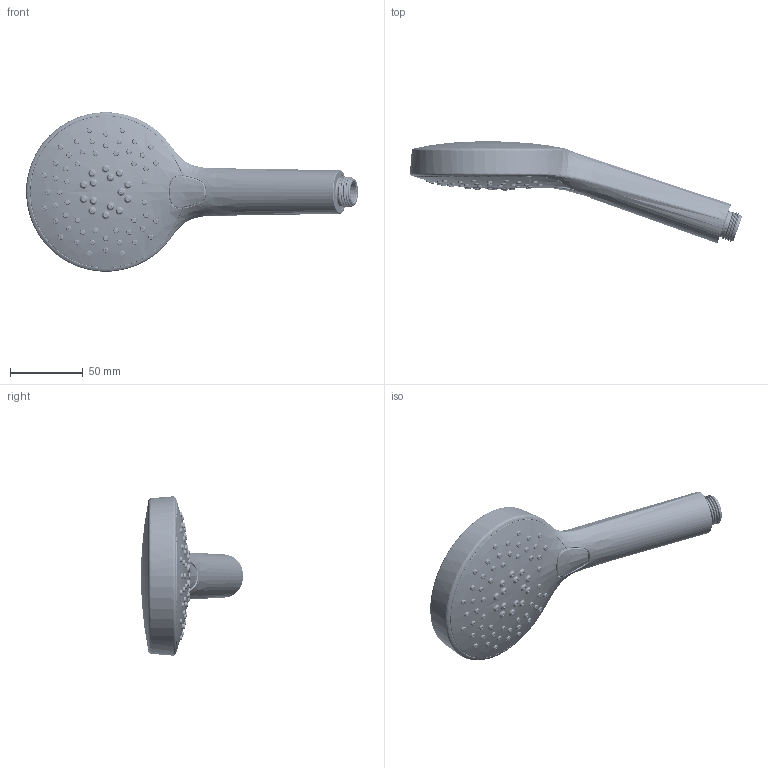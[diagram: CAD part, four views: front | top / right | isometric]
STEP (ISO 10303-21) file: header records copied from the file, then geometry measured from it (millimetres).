
FILE_DESCRIPTION((''),'2;1');
FILE_NAME('76686--00_SUB01_ASM','2022-06-14T08:18:54',('sosm1'),(''),'CREO PARAMETRIC BY PTC INC, 2018190','CREO PARAMETRIC BY PTC INC, 2018190','');
FILE_SCHEMA(('CONFIG_CONTROL_DESIGN'));
Products named in the file (41): 76686--00_POS1; 76686--00_POS2; 76686--00_POS3; 76686--00_POS4; 76686--00_POS5; 76686--00_POS6; 76686--00_POS7; 76686--00_SUB04_ASM; 76686--00_SUB03_ASM; 76686--00_POS8; 76686--00_POS9; 76686--00_POS10; 76686--00_SUB05_ASM; 76686--00_POS11; 76686--00_POS12; 76686--00_POS13; 76686--00_POS14; 76686--00_POS15; 76686--00_POS16; 76686--00_POS17; 76686--00_POS18; 76686--00_POS19; 76686--00_POS20; 76686--00_POS21; 76686--00_POS22; 76686--00_POS23; 76686--00_POS24; 76686--00_POS25; 76686--00_POS26; 76686--00_POS27; 76686--00_POS28; 76686--00_POS29; 76686--00_POS30; 76686--00_POS31; 76686--00_POS32; 76686--00_POS33; 76686--00_POS34; 76686--00_POS35; 76686--00_SUB06_ASM; 76686--00_SUB02_ASM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
Assembly tree (44 placements, depth 5):
  76686--00_SUB01_ASM
    76686--00_SUB02_ASM
      76686--00_POS1
      76686--00_SUB03_ASM
        76686--00_POS2
        76686--00_SUB04_ASM
          76686--00_POS3
          76686--00_POS4
          76686--00_POS5
          76686--00_POS6
          76686--00_POS7
      76686--00_SUB05_ASM
        76686--00_POS8
        76686--00_POS9
        76686--00_POS10
      76686--00_POS11
      76686--00_POS12
      76686--00_POS13
      76686--00_POS14
      76686--00_POS15
      76686--00_POS16
      76686--00_POS17
      76686--00_POS18
      76686--00_POS19
      76686--00_POS20
      76686--00_POS21  x5
      76686--00_POS22
      76686--00_POS23
      76686--00_POS24
      76686--00_POS25
      76686--00_POS26
      76686--00_POS27
      76686--00_POS28
      76686--00_POS29
      76686--00_POS30
      76686--00_POS31
      76686--00_POS32
      76686--00_SUB06_ASM
        76686--00_POS33
        76686--00_POS34
        76686--00_POS35
Bounding box: 228.52 x 70.4 x 109.62 mm (x, y, z)
Volume: 178136 mm3; surface area: 173084.2 mm2
Topology: 39 solids, 39 shells, 7643 faces, 21082 edges, 13536 vertices
Faces by surface type: cylinder 1967, bspline 1937, plane 1800, cone 1093, torus 649, sphere 108, extrusion 65, revolution 24
Entity records: 390753 total; most frequent: CARTESIAN_POINT 217985, ORIENTED_EDGE 40900, DIRECTION 29629, EDGE_CURVE 20450, VERTEX_POINT 13196, AXIS2_PLACEMENT_3D 11785, B_SPLINE_CURVE_WITH_KNOTS 8353, EDGE_LOOP 7974
